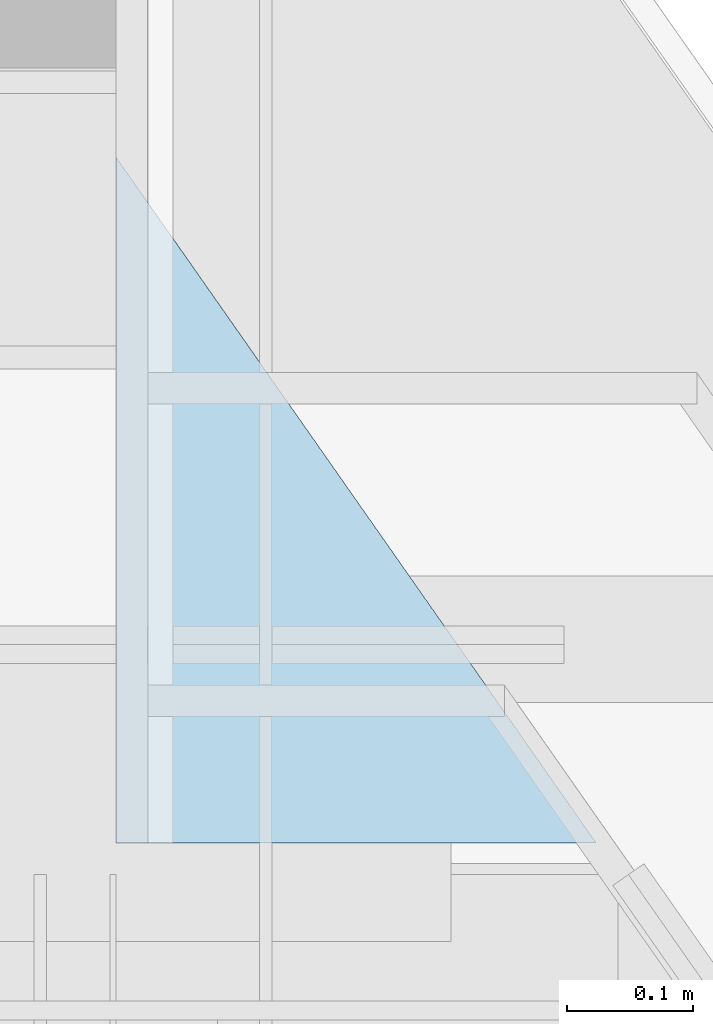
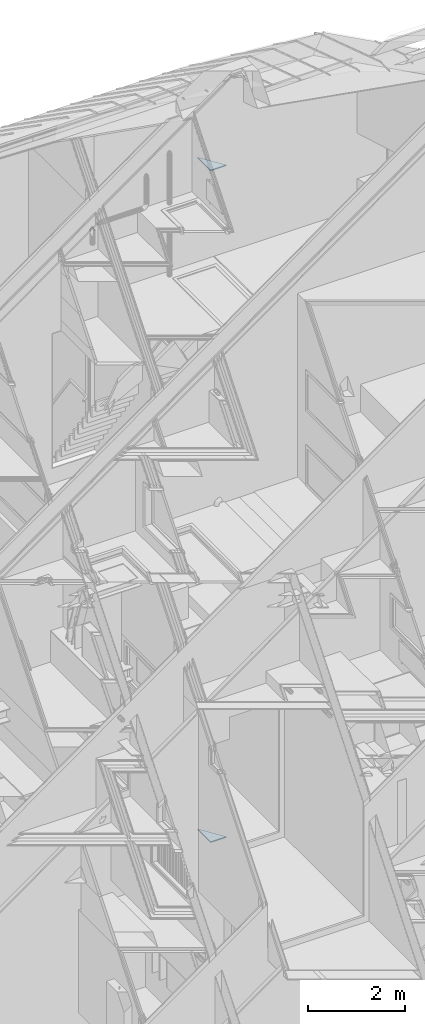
# One storey, part 315 of 583: 2 slabs.
"""IFC2X3 building model written with IfcOpenShell, lengths in metres."""

from ifc_helpers import new_model, entity, si_unit, converted_unit, derived_unit, money_unit, direction, frame, origin_with_axes, place, context, subcontext, project, spatial, faceted_brep, material, type_object, element, save


model = new_model("IFC2X3")

# Units and contexts
model_context = context("Model", 3, precision=1e-05, world=origin_with_axes(), true_north=direction((0.0, 1.0)))
body_context = subcontext(model_context, "Body", "Model", "MODEL_VIEW", scale=1.0)
ifc_project = project(units=[si_unit("LENGTHUNIT", "METRE"), si_unit("AREAUNIT", "SQUARE_METRE"), si_unit("VOLUMEUNIT", "CUBIC_METRE"), si_unit("ABSORBEDDOSEUNIT", "GRAY"), si_unit("AMOUNTOFSUBSTANCEUNIT", "MOLE"), si_unit("DOSEEQUIVALENTUNIT", "SIEVERT"), si_unit("ELECTRICCAPACITANCEUNIT", "FARAD"), si_unit("ELECTRICCHARGEUNIT", "COULOMB"), si_unit("ELECTRICCONDUCTANCEUNIT", "SIEMENS"), si_unit("ELECTRICCURRENTUNIT", "AMPERE"), si_unit("ELECTRICRESISTANCEUNIT", "OHM"), si_unit("ELECTRICVOLTAGEUNIT", "VOLT"), si_unit("ENERGYUNIT", "JOULE"), si_unit("FORCEUNIT", "NEWTON"), si_unit("FREQUENCYUNIT", "HERTZ"), si_unit("ILLUMINANCEUNIT", "LUX"), si_unit("INDUCTANCEUNIT", "HENRY"), si_unit("LUMINOUSFLUXUNIT", "LUMEN"), si_unit("LUMINOUSINTENSITYUNIT", "CANDELA"), si_unit("MAGNETICFLUXDENSITYUNIT", "TESLA"), si_unit("MAGNETICFLUXUNIT", "WEBER"), si_unit("MASSUNIT", "GRAM"), converted_unit("PLANEANGLEUNIT", "degree", entity("IfcReal", 0.0174532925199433), si_unit("PLANEANGLEUNIT", "RADIAN"), dimensions=[0, 0, 0, 0, 0, 0, 0]), si_unit("POWERUNIT", "WATT"), si_unit("PRESSUREUNIT", "PASCAL"), si_unit("RADIOACTIVITYUNIT", "BECQUEREL"), si_unit("SOLIDANGLEUNIT", "STERADIAN"), si_unit("THERMODYNAMICTEMPERATUREUNIT", "KELVIN"), si_unit("TIMEUNIT", "SECOND"), derived_unit("ACCELERATIONUNIT", [(si_unit("LENGTHUNIT", "METRE"), 1), (si_unit("TIMEUNIT", "SECOND"), -2)]), derived_unit("ANGULARVELOCITYUNIT", [(converted_unit("PLANEANGLEUNIT", "degree", entity("IfcReal", 0.0174532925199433), si_unit("PLANEANGLEUNIT", "RADIAN"), dimensions=[0, 0, 0, 0, 0, 0, 0]), 1), (si_unit("TIMEUNIT", "SECOND"), -1)]), derived_unit("CURVATUREUNIT", [(converted_unit("PLANEANGLEUNIT", "degree", entity("IfcReal", 0.0174532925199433), si_unit("PLANEANGLEUNIT", "RADIAN"), dimensions=[0, 0, 0, 0, 0, 0, 0]), 1), (si_unit("LENGTHUNIT", "METRE"), -1)]), derived_unit("DYNAMICVISCOSITYUNIT", [(si_unit("PRESSUREUNIT", "PASCAL"), 1), (si_unit("TIMEUNIT", "SECOND"), 1)]), derived_unit("HEATFLUXDENSITYUNIT", [(si_unit("POWERUNIT", "WATT"), 1), (si_unit("LENGTHUNIT", "METRE"), -2)]), derived_unit("HEATINGVALUEUNIT", [(si_unit("ENERGYUNIT", "JOULE"), 1), (si_unit("MASSUNIT", "GRAM"), -1)]), derived_unit("INTEGERCOUNTRATEUNIT", [(si_unit("TIMEUNIT", "SECOND"), -1)]), derived_unit("IONCONCENTRATIONUNIT", [(si_unit("MASSUNIT", "GRAM"), 1), (si_unit("VOLUMEUNIT", "CUBIC_METRE"), -1)]), derived_unit("ISOTHERMALMOISTURECAPACITYUNIT", [(si_unit("VOLUMEUNIT", "CUBIC_METRE"), 1), (si_unit("MASSUNIT", "GRAM"), -1)]), derived_unit("KINEMATICVISCOSITYUNIT", [(si_unit("AREAUNIT", "SQUARE_METRE"), 1), (si_unit("TIMEUNIT", "SECOND"), -1)]), derived_unit("LINEARFORCEUNIT", [(si_unit("FORCEUNIT", "NEWTON"), 1), (si_unit("LENGTHUNIT", "METRE"), -1)]), derived_unit("LINEARMOMENTUNIT", [(si_unit("FORCEUNIT", "NEWTON"), 1), (si_unit("LENGTHUNIT", "METRE"), -1)]), derived_unit("LINEARSTIFFNESSUNIT", [(si_unit("FORCEUNIT", "NEWTON"), 1), (si_unit("LENGTHUNIT", "METRE"), -1)]), derived_unit("LINEARVELOCITYUNIT", [(si_unit("LENGTHUNIT", "METRE"), 1), (si_unit("TIMEUNIT", "SECOND"), -1)]), derived_unit("LUMINOUSINTENSITYDISTRIBUTIONUNIT", [(si_unit("LUMINOUSINTENSITYUNIT", "CANDELA"), 1), (si_unit("LUMINOUSFLUXUNIT", "LUMEN"), -1)]), derived_unit("MASSDENSITYUNIT", [(si_unit("MASSUNIT", "GRAM"), 1), (si_unit("VOLUMEUNIT", "CUBIC_METRE"), -1)]), derived_unit("MASSFLOWRATEUNIT", [(si_unit("MASSUNIT", "GRAM"), 1), (si_unit("TIMEUNIT", "SECOND"), -1)]), derived_unit("MASSPERLENGTHUNIT", [(si_unit("MASSUNIT", "GRAM"), 1), (si_unit("LENGTHUNIT", "METRE"), -1)]), derived_unit("MODULUSOFELASTICITYUNIT", [(si_unit("FORCEUNIT", "NEWTON"), 1), (si_unit("AREAUNIT", "SQUARE_METRE"), -1)]), derived_unit("MODULUSOFLINEARSUBGRADEREACTIONUNIT", [(si_unit("FORCEUNIT", "NEWTON"), 1), (si_unit("LENGTHUNIT", "METRE"), -2)]), derived_unit("MODULUSOFROTATIONALSUBGRADEREACTIONUNIT", [(si_unit("FORCEUNIT", "NEWTON"), 1), (si_unit("LENGTHUNIT", "METRE"), 1)]), derived_unit("MODULUSOFSUBGRADEREACTIONUNIT", [(si_unit("FORCEUNIT", "NEWTON"), 1), (si_unit("VOLUMEUNIT", "CUBIC_METRE"), -1)]), derived_unit("MOISTUREDIFFUSIVITYUNIT", [(si_unit("VOLUMEUNIT", "CUBIC_METRE"), 1), (si_unit("TIMEUNIT", "SECOND"), -1)]), derived_unit("MOLECULARWEIGHTUNIT", [(si_unit("MASSUNIT", "GRAM"), 1), (si_unit("AMOUNTOFSUBSTANCEUNIT", "MOLE"), -1)]), derived_unit("PLANARFORCEUNIT", [(si_unit("FORCEUNIT", "NEWTON"), 1), (si_unit("LENGTHUNIT", "METRE"), -2)]), derived_unit("ROTATIONALFREQUENCYUNIT", [(si_unit("TIMEUNIT", "SECOND"), -1)]), derived_unit("ROTATIONALMASSUNIT", [(si_unit("MASSUNIT", "GRAM"), 1), (si_unit("LENGTHUNIT", "METRE"), 2)]), derived_unit("ROTATIONALSTIFFNESSUNIT", [(si_unit("FORCEUNIT", "NEWTON"), 1), (si_unit("LENGTHUNIT", "METRE"), 1), (converted_unit("PLANEANGLEUNIT", "degree", entity("IfcReal", 0.0174532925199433), si_unit("PLANEANGLEUNIT", "RADIAN"), dimensions=[0, 0, 0, 0, 0, 0, 0]), -1)]), derived_unit("SECTIONAREAINTEGRALUNIT", [(si_unit("LENGTHUNIT", "METRE"), 5)]), derived_unit("SECTIONMODULUSUNIT", [(si_unit("LENGTHUNIT", "METRE"), 3)]), derived_unit("SHEARMODULUSUNIT", [(si_unit("FORCEUNIT", "NEWTON"), 1), (si_unit("AREAUNIT", "SQUARE_METRE"), -1)]), derived_unit("SOUNDPOWERUNIT", [(si_unit("ENERGYUNIT", "JOULE"), 1), (si_unit("TIMEUNIT", "SECOND"), -1)]), derived_unit("SPECIFICHEATCAPACITYUNIT", [(si_unit("FORCEUNIT", "NEWTON"), 1), (si_unit("MASSUNIT", "GRAM"), -1), (si_unit("THERMODYNAMICTEMPERATUREUNIT", "KELVIN"), -1)]), derived_unit("TEMPERATUREGRADIENTUNIT", [(si_unit("THERMODYNAMICTEMPERATUREUNIT", "KELVIN"), 1), (si_unit("LENGTHUNIT", "METRE"), -1)]), derived_unit("THERMALADMITTANCEUNIT", [(si_unit("POWERUNIT", "WATT"), 1), (si_unit("AREAUNIT", "SQUARE_METRE"), -1), (si_unit("THERMODYNAMICTEMPERATUREUNIT", "KELVIN"), -1)]), derived_unit("THERMALCONDUCTANCEUNIT", [(si_unit("POWERUNIT", "WATT"), 1), (si_unit("LENGTHUNIT", "METRE"), -1), (si_unit("THERMODYNAMICTEMPERATUREUNIT", "KELVIN"), -1)]), derived_unit("THERMALEXPANSIONCOEFFICIENTUNIT", [(si_unit("THERMODYNAMICTEMPERATUREUNIT", "KELVIN"), -1)]), derived_unit("THERMALRESISTANCEUNIT", [(si_unit("AREAUNIT", "SQUARE_METRE"), 1), (si_unit("POWERUNIT", "WATT"), -1)]), derived_unit("THERMALTRANSMITTANCEUNIT", [(si_unit("POWERUNIT", "WATT"), 1), (si_unit("AREAUNIT", "SQUARE_METRE"), -1), (si_unit("THERMODYNAMICTEMPERATUREUNIT", "KELVIN"), -1)]), derived_unit("TORQUEUNIT", [(si_unit("FORCEUNIT", "NEWTON"), 1), (si_unit("LENGTHUNIT", "METRE"), 1)]), derived_unit("VAPORPERMEABILITYUNIT", [(si_unit("MASSUNIT", "GRAM"), 1), (si_unit("TIMEUNIT", "SECOND"), -1)]), derived_unit("VOLUMETRICFLOWRATEUNIT", [(si_unit("VOLUMEUNIT", "CUBIC_METRE"), 1), (si_unit("TIMEUNIT", "SECOND"), -1)]), derived_unit("WARPINGCONSTANTUNIT", [(si_unit("LENGTHUNIT", "METRE"), 6)]), derived_unit("WARPINGMOMENTUNIT", [(si_unit("FORCEUNIT", "NEWTON"), 1), (si_unit("LENGTHUNIT", "METRE"), 2)]), money_unit("GBP")], contexts=[model_context])

# Site, building, storey
site_placement = place(None, origin_with_axes())
site = spatial("IfcSite", under=ifc_project, at=site_placement, Name="Site", CompositionType="ELEMENT")
building_placement = place(site_placement, origin_with_axes())
building = spatial("IfcBuilding", under=site, at=building_placement, Name="Building01", CompositionType="ELEMENT")
storey_placement = place(building_placement, frame((0.0, 0.0, 20.78), z_axis=(0.0, 0.0, 1.0), x_axis=(1.0, 0.0, 0.0)))
storey = spatial("IfcBuildingStorey", under=building, at=storey_placement, Name="RL", CompositionType="ELEMENT", Elevation=20.78)

# Slabs
ifc_material = material(Name="A_BSUK_Roofs")
slab_type = type_object("IfcSlabType", Name="A-FloorsSlabs A_BSUK_Slabs", PredefinedType="FLOOR")
placement = place(storey_placement, frame((0.0, 0.0, -20.78), z_axis=(0.0, 0.0, 1.0), x_axis=(1.0, 0.0, 0.0)))
element("IfcSlab", 1, at=placement, inside=storey, type_object=slab_type, material=ifc_material, Name="A-FloorsSlabs A_BSUK_Slabs", ObjectType="CompoundSlabLeaf", context=body_context, shape_type="Brep", body=[
    faceted_brep([(11.699939, 20.205, 21.964976), (11.699939, 20.205, 21.939976), (12.079837, 20.205, 21.939976), (12.079837, 20.205, 21.964976), (11.699879, 20.747636, 21.964976), (11.699879, 20.747636, 21.939976)], [[[0, 1, 2, 3]], [[4, 5, 1, 0]], [[3, 2, 5, 4]], [[1, 5, 2]], [[3, 4, 0]]]),
])
element("IfcSlab", 2, at=placement, inside=storey, type_object=slab_type, material=ifc_material, Name="A-FloorsSlabs A_BSUK_Slabs", ObjectType="CompoundSlabLeaf", context=body_context, shape_type="Brep", body=[
    faceted_brep([(12.079837, 20.205, 5.035024), (12.079837, 20.205, 5.060024), (11.699939, 20.205, 5.060024), (11.699939, 20.205, 5.035024), (11.699879, 20.747636, 5.035024), (11.699879, 20.747636, 5.060024)], [[[0, 1, 2, 3]], [[4, 5, 1, 0]], [[3, 2, 5, 4]], [[1, 5, 2]], [[3, 4, 0]]]),
])

save(model, "model.ifc")
